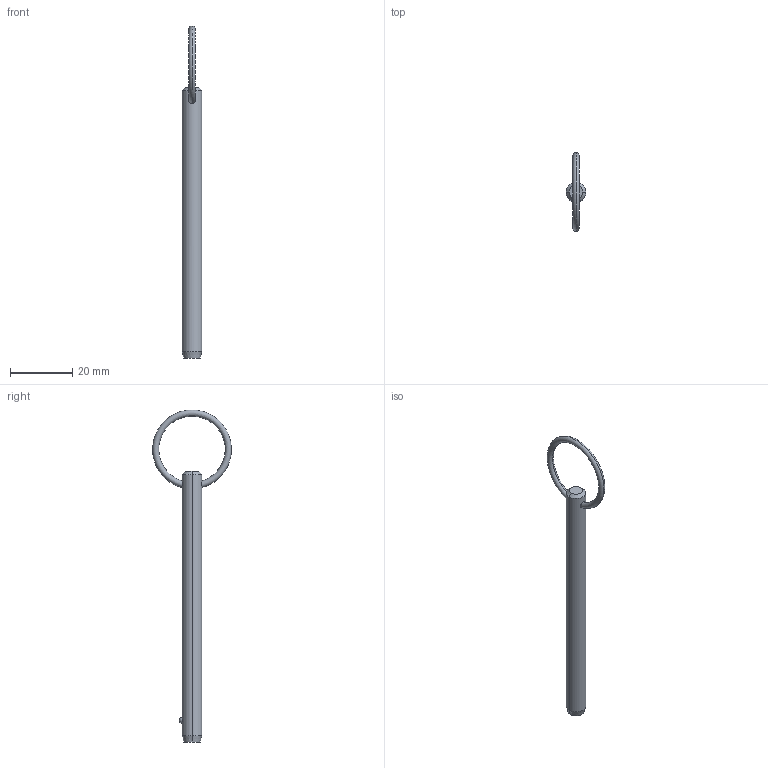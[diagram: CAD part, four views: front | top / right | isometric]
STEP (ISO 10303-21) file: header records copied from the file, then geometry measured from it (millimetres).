
FILE_DESCRIPTION (( 'STEP AP203' ), '1' );
FILE_NAME ('P1250.025-290.step', '2019-07-29T19:44:14', ( '' ), ( '' ), 'SwSTEP 2.0', 'SolidWorks 2017', '' );
FILE_SCHEMA (( 'CONFIG_CONTROL_DESIGN' ));
Length unit declared in the file: millimetre
Products named in the file (1): P1250.025-290
Bounding box: 6.35 x 25.38 x 107.02 mm (x, y, z)
Volume: 2955.2 mm3; surface area: 2196.9 mm2
Topology: 1 solids, 1 shells, 12 faces, 28 edges, 17 vertices
Faces by surface type: cone 4, torus 2, sphere 2, cylinder 2, plane 2
Entity records: 481 total; most frequent: CARTESIAN_POINT 148, DIRECTION 56, ORIENTED_EDGE 48, AXIS2_PLACEMENT_3D 25, EDGE_CURVE 24, VERTEX_POINT 15, EDGE_LOOP 15, ADVANCED_FACE 12
